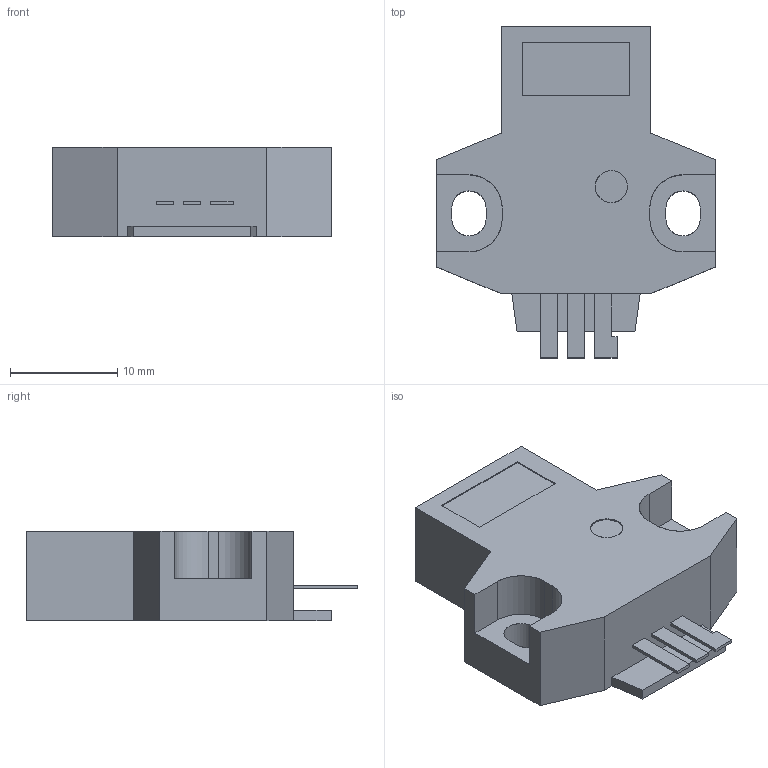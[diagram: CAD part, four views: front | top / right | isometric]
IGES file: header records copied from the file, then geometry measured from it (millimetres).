
Start section: SolidWorks IGES FILE using analytic representation for surfaces
Global section: file name: \\intra-srv04\開発データ\CAD_Data\CAD委員会\3D電子ｶﾀﾛｸﾞ\製品カタログ（新）\0_IGES\PM2-LF10.IGS,41HSolidWorks 2004; native system: by SolidWorks Corporation; preprocessor: Version 5.3; author: yk0651; date: 050906.105228; units: millimetre
Bounding box: 26 x 31 x 8.4 mm (x, y, z)
Surface area: 2086.2 mm2 (no closed solid volume)
Topology: 0 solids, 0 shells, 61 faces, 560 edges, 560 vertices
Faces by surface type: bspline 51, revolution 10
